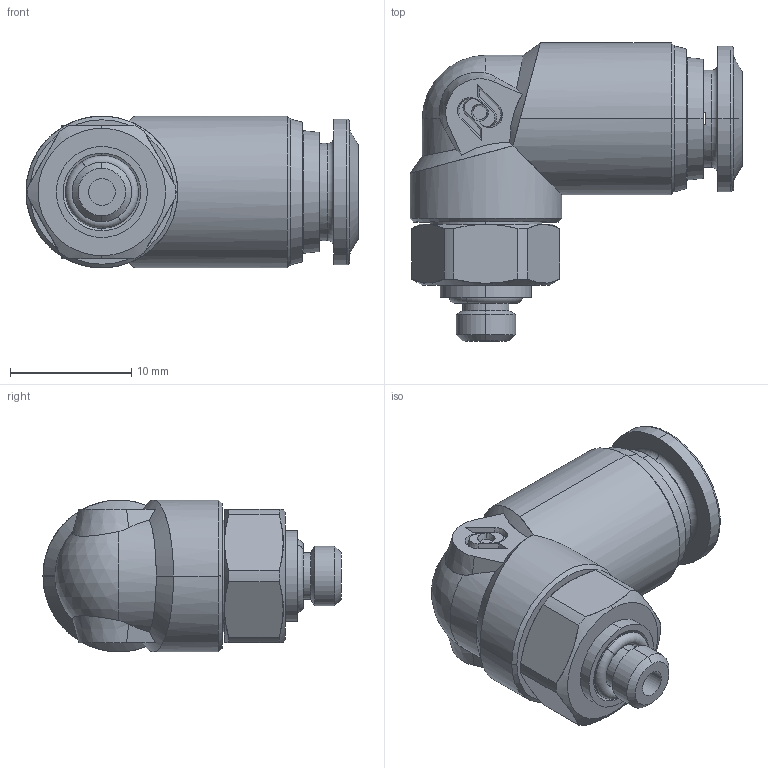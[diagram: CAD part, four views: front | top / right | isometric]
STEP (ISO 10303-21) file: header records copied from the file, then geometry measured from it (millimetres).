
FILE_DESCRIPTION(/* description */ (''),/* implementation_level */ '2;1');
FILE_NAME(/* name */ 'K:\praktykant1\Tomasz Zadworny\Aignep\57116 6 M5\57116 6 M5.stp',/* time_stamp */ '2014-07-02T14:41:14+02:00',/* author */ ('Praktykant1'),/* organization */ (''),/* preprocessor_version */ 'ST-DEVELOPER v15.6',/* originating_system */ 'Autodesk Inventor 2015',/* authorisation */ '');
FILE_SCHEMA (('AUTOMOTIVE_DESIGN { 1 0 10303 214 3 1 1 }'));
Length unit declared in the file: millimetre
Products named in the file (1): 57116 6 M5
Bounding box: 27.35 x 24.55 x 12.5 mm (x, y, z)
Surface area: 1977.8 mm2 (no closed solid volume)
Topology: 0 solids, 153 shells, 149 faces, 686 edges, 686 vertices
Faces by surface type: plane 50, cone 44, cylinder 32, torus 18, bspline 4, sphere 1
Entity records: 8429 total; most frequent: CARTESIAN_POINT 2679, DIRECTION 1164, VERTEX_POINT 686, EDGE_CURVE 686, ORIENTED_EDGE 686, AXIS2_PLACEMENT_3D 452, CIRCLE 286, LINE 260
